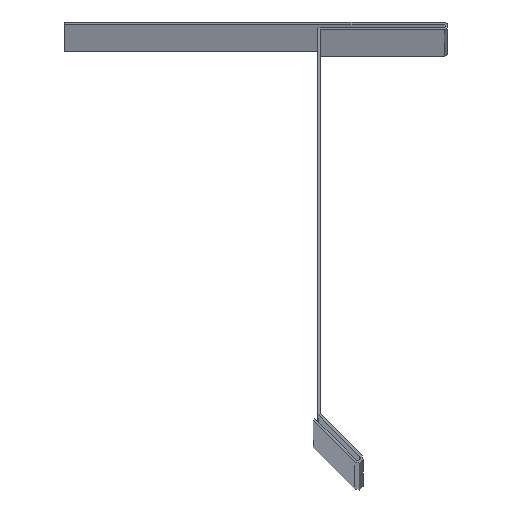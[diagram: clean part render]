
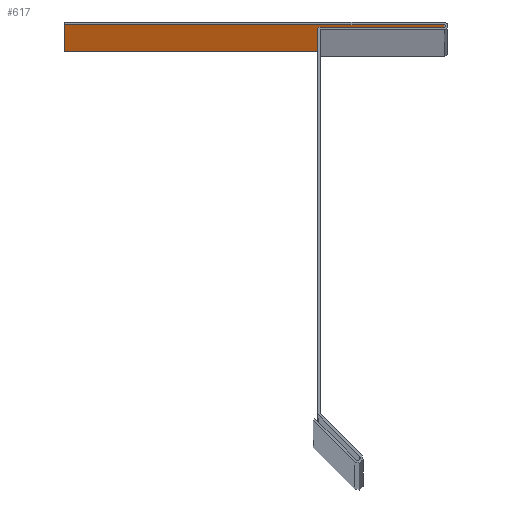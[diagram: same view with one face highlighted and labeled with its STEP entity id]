
A CAD part, top view. The second image highlights one B-rep face of the part: STEP entity #617.
In plain terms, the highlighted planar face has unit normal (0, -1, 0).
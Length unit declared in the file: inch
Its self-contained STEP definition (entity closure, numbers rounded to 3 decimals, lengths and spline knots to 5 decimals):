
#26 = CARTESIAN_POINT ( 'NONE',  ( 0.99034, 0.19144, 120. ) ) ;
#28 = DIRECTION ( 'NONE',  ( 0., 0., -1. ) ) ;
#57 = VERTEX_POINT ( 'NONE', #550 ) ;
#71 = CARTESIAN_POINT ( 'NONE',  ( -1.97966, 0.19144, 0. ) ) ;
#97 = DIRECTION ( 'NONE',  ( 1., 0., 0. ) ) ;
#107 = VERTEX_POINT ( 'NONE', #71 ) ;
#152 = VERTEX_POINT ( 'NONE', #165 ) ;
#165 = CARTESIAN_POINT ( 'NONE',  ( 0.99034, 0.19144, 0. ) ) ;
#185 = VECTOR ( 'NONE', #350, 39.37008 ) ;
#187 = ORIENTED_EDGE ( 'NONE', *, *, #754, .F. ) ;
#202 = EDGE_CURVE ( 'NONE', #57, #107, #709, .T. ) ;
#236 = VECTOR ( 'NONE', #28, 39.37008 ) ;
#254 = VECTOR ( 'NONE', #97, 39.37008 ) ;
#350 = DIRECTION ( 'NONE',  ( 0., 0., -1. ) ) ;
#354 = LINE ( 'NONE', #618, #503 ) ;
#359 = LINE ( 'NONE', #26, #185 ) ;
#413 = DIRECTION ( 'NONE',  ( 0., 1., 0. ) ) ;
#429 = ORIENTED_EDGE ( 'NONE', *, *, #202, .T. ) ;
#464 = DIRECTION ( 'NONE',  ( -1., 0., 0. ) ) ;
#467 = CARTESIAN_POINT ( 'NONE',  ( -1.97966, 0.19144, 120. ) ) ;
#475 = EDGE_CURVE ( 'NONE', #107, #152, #354, .T. ) ;
#495 = AXIS2_PLACEMENT_3D ( 'NONE', #578, #413, #464 ) ;
#503 = VECTOR ( 'NONE', #736, 39.37008 ) ;
#536 = CARTESIAN_POINT ( 'NONE',  ( 0.99034, 0.19144, 120. ) ) ;
#540 = VERTEX_POINT ( 'NONE', #536 ) ;
#550 = CARTESIAN_POINT ( 'NONE',  ( -1.97966, 0.19144, 120. ) ) ;
#572 = LINE ( 'NONE', #634, #254 ) ;
#578 = CARTESIAN_POINT ( 'NONE',  ( -1.97966, 0.19144, 120. ) ) ;
#590 = FACE_OUTER_BOUND ( 'NONE', #741, .T. ) ;
#617 = ADVANCED_FACE ( 'NONE', ( #590 ), #698, .F. ) ;
#618 = CARTESIAN_POINT ( 'NONE',  ( -1.97966, 0.19144, 0. ) ) ;
#628 = EDGE_CURVE ( 'NONE', #540, #152, #359, .T. ) ;
#629 = ORIENTED_EDGE ( 'NONE', *, *, #628, .F. ) ;
#634 = CARTESIAN_POINT ( 'NONE',  ( -1.97966, 0.19144, 120. ) ) ;
#698 = PLANE ( 'NONE',  #495 ) ;
#709 = LINE ( 'NONE', #467, #236 ) ;
#736 = DIRECTION ( 'NONE',  ( 1., 0., 0. ) ) ;
#741 = EDGE_LOOP ( 'NONE', ( #783, #629, #187, #429 ) ) ;
#754 = EDGE_CURVE ( 'NONE', #57, #540, #572, .T. ) ;
#783 = ORIENTED_EDGE ( 'NONE', *, *, #475, .T. ) ;
